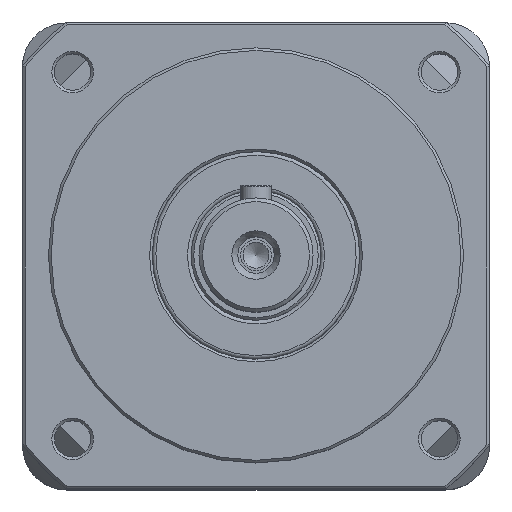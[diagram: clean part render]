
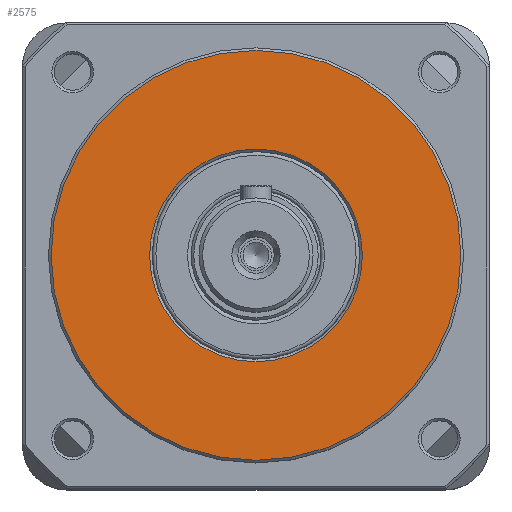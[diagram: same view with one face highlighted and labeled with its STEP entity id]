
A CAD part, top view. The second image highlights one B-rep face of the part: STEP entity #2575.
In plain terms, the highlighted planar face has unit normal (0, 0, 1).
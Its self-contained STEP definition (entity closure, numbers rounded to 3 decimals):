
#1508 = DIRECTION ( 'NONE',  ( 0., 0., 1. ) ) ;
#1921 = DIRECTION ( 'NONE',  ( 0., 0., 1. ) ) ;
#2575 = ADVANCED_FACE ( 'NONE', ( #5341, #6329 ), #9407, .T. ) ;
#5341 = FACE_BOUND ( 'NONE', #29953, .T. ) ;
#5463 = CARTESIAN_POINT ( 'NONE',  ( -3.779, -1.826, 100.54 ) ) ;
#5881 = CARTESIAN_POINT ( 'NONE',  ( -3.779, -1.826, 100.54 ) ) ;
#6329 = FACE_OUTER_BOUND ( 'NONE', #26851, .T. ) ;
#7360 = EDGE_CURVE ( 'NONE', #30493, #30493, #10959, .T. ) ;
#8321 = AXIS2_PLACEMENT_3D ( 'NONE', #5463, #1508, #36153 ) ;
#9407 = PLANE ( 'NONE',  #8321 ) ;
#10959 = CIRCLE ( 'NONE', #14622, 39.5 ) ;
#12290 = DIRECTION ( 'NONE',  ( 1., 0., 0. ) ) ;
#12952 = CARTESIAN_POINT ( 'NONE',  ( 16.721, -1.826, 100.54 ) ) ;
#14622 = AXIS2_PLACEMENT_3D ( 'NONE', #5881, #1921, #36579 ) ;
#16240 = DIRECTION ( 'NONE',  ( 0., 0., -1. ) ) ;
#16893 = VERTEX_POINT ( 'NONE', #12952 ) ;
#20210 = CARTESIAN_POINT ( 'NONE',  ( -3.779, -1.826, 100.54 ) ) ;
#21346 = ORIENTED_EDGE ( 'NONE', *, *, #7360, .T. ) ;
#22479 = EDGE_CURVE ( 'NONE', #16893, #16893, #30072, .T. ) ;
#24109 = ORIENTED_EDGE ( 'NONE', *, *, #22479, .T. ) ;
#26519 = CARTESIAN_POINT ( 'NONE',  ( 35.721, -1.826, 100.54 ) ) ;
#26851 = EDGE_LOOP ( 'NONE', ( #21346 ) ) ;
#28066 = AXIS2_PLACEMENT_3D ( 'NONE', #20210, #16240, #12290 ) ;
#29953 = EDGE_LOOP ( 'NONE', ( #24109 ) ) ;
#30072 = CIRCLE ( 'NONE', #28066, 20.5 ) ;
#30493 = VERTEX_POINT ( 'NONE', #26519 ) ;
#36153 = DIRECTION ( 'NONE',  ( 1., 0., 0. ) ) ;
#36579 = DIRECTION ( 'NONE',  ( 1., 0., 0. ) ) ;
